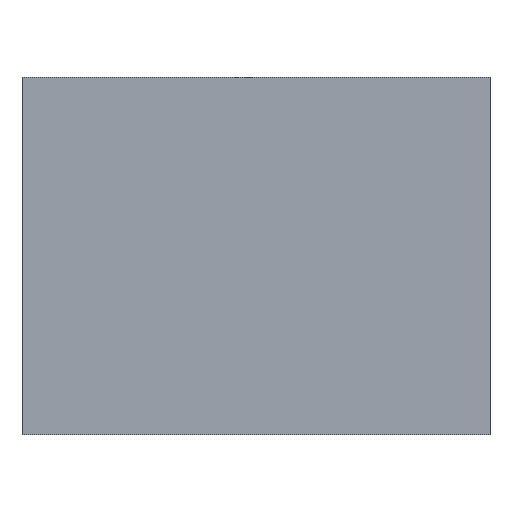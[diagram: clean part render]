
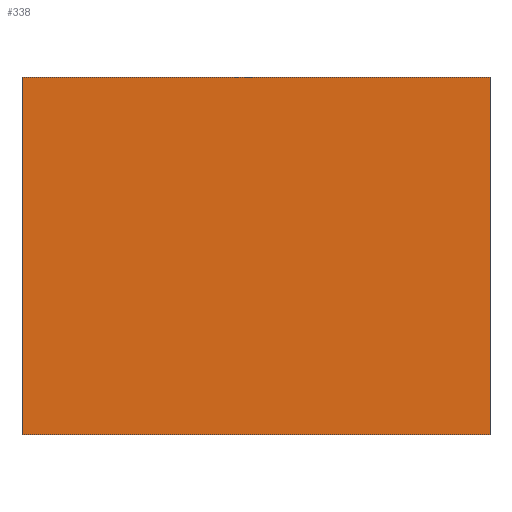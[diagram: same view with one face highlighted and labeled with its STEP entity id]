
A CAD part, top view. The second image highlights one B-rep face of the part: STEP entity #338.
In plain terms, the highlighted planar face has unit normal (0, 0, 1).
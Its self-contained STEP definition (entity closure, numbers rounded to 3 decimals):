
#24 = VERTEX_POINT('',#25);
#25 = CARTESIAN_POINT('',(0.,0.,1.2));
#32 = PLANE('',#33);
#33 = AXIS2_PLACEMENT_3D('',#34,#35,#36);
#34 = CARTESIAN_POINT('',(0.,0.,0.));
#35 = DIRECTION('',(1.,0.,-0.));
#36 = DIRECTION('',(0.,0.,1.));
#44 = PLANE('',#45);
#45 = AXIS2_PLACEMENT_3D('',#46,#47,#48);
#46 = CARTESIAN_POINT('',(0.,0.,0.));
#47 = DIRECTION('',(-0.,1.,0.));
#48 = DIRECTION('',(0.,0.,1.));
#85 = VERTEX_POINT('',#86);
#86 = CARTESIAN_POINT('',(0.,26.,1.2));
#100 = PLANE('',#101);
#101 = AXIS2_PLACEMENT_3D('',#102,#103,#104);
#102 = CARTESIAN_POINT('',(0.,26.,0.));
#103 = DIRECTION('',(-0.,1.,0.));
#104 = DIRECTION('',(0.,0.,1.));
#112 = EDGE_CURVE('',#24,#85,#113,.T.);
#113 = SURFACE_CURVE('',#114,(#118,#125),.PCURVE_S1.);
#114 = LINE('',#115,#116);
#115 = CARTESIAN_POINT('',(0.,0.,1.2));
#116 = VECTOR('',#117,1.);
#117 = DIRECTION('',(-0.,1.,0.));
#118 = PCURVE('',#32,#119);
#119 = DEFINITIONAL_REPRESENTATION('',(#120),#124);
#120 = LINE('',#121,#122);
#121 = CARTESIAN_POINT('',(1.2,0.));
#122 = VECTOR('',#123,1.);
#123 = DIRECTION('',(0.,-1.));
#124 = ( GEOMETRIC_REPRESENTATION_CONTEXT(2)
PARAMETRIC_REPRESENTATION_CONTEXT() REPRESENTATION_CONTEXT('2D SPACE',''
  ) );
#125 = PCURVE('',#126,#131);
#126 = PLANE('',#127);
#127 = AXIS2_PLACEMENT_3D('',#128,#129,#130);
#128 = CARTESIAN_POINT('',(0.,0.,1.2));
#129 = DIRECTION('',(0.,0.,1.));
#130 = DIRECTION('',(1.,0.,-0.));
#131 = DEFINITIONAL_REPRESENTATION('',(#132),#136);
#132 = LINE('',#133,#134);
#133 = CARTESIAN_POINT('',(0.,0.));
#134 = VECTOR('',#135,1.);
#135 = DIRECTION('',(0.,1.));
#136 = ( GEOMETRIC_REPRESENTATION_CONTEXT(2)
PARAMETRIC_REPRESENTATION_CONTEXT() REPRESENTATION_CONTEXT('2D SPACE',''
  ) );
#144 = VERTEX_POINT('',#145);
#145 = CARTESIAN_POINT('',(34.,0.,1.2));
#152 = PLANE('',#153);
#153 = AXIS2_PLACEMENT_3D('',#154,#155,#156);
#154 = CARTESIAN_POINT('',(34.,0.,0.));
#155 = DIRECTION('',(1.,0.,-0.));
#156 = DIRECTION('',(0.,0.,1.));
#195 = VERTEX_POINT('',#196);
#196 = CARTESIAN_POINT('',(34.,26.,1.2));
#217 = EDGE_CURVE('',#144,#195,#218,.T.);
#218 = SURFACE_CURVE('',#219,(#223,#230),.PCURVE_S1.);
#219 = LINE('',#220,#221);
#220 = CARTESIAN_POINT('',(34.,0.,1.2));
#221 = VECTOR('',#222,1.);
#222 = DIRECTION('',(-0.,1.,0.));
#223 = PCURVE('',#152,#224);
#224 = DEFINITIONAL_REPRESENTATION('',(#225),#229);
#225 = LINE('',#226,#227);
#226 = CARTESIAN_POINT('',(1.2,0.));
#227 = VECTOR('',#228,1.);
#228 = DIRECTION('',(0.,-1.));
#229 = ( GEOMETRIC_REPRESENTATION_CONTEXT(2)
PARAMETRIC_REPRESENTATION_CONTEXT() REPRESENTATION_CONTEXT('2D SPACE',''
  ) );
#230 = PCURVE('',#126,#231);
#231 = DEFINITIONAL_REPRESENTATION('',(#232),#236);
#232 = LINE('',#233,#234);
#233 = CARTESIAN_POINT('',(34.,0.));
#234 = VECTOR('',#235,1.);
#235 = DIRECTION('',(0.,1.));
#236 = ( GEOMETRIC_REPRESENTATION_CONTEXT(2)
PARAMETRIC_REPRESENTATION_CONTEXT() REPRESENTATION_CONTEXT('2D SPACE',''
  ) );
#263 = EDGE_CURVE('',#24,#144,#264,.T.);
#264 = SURFACE_CURVE('',#265,(#269,#276),.PCURVE_S1.);
#265 = LINE('',#266,#267);
#266 = CARTESIAN_POINT('',(0.,0.,1.2));
#267 = VECTOR('',#268,1.);
#268 = DIRECTION('',(1.,0.,-0.));
#269 = PCURVE('',#44,#270);
#270 = DEFINITIONAL_REPRESENTATION('',(#271),#275);
#271 = LINE('',#272,#273);
#272 = CARTESIAN_POINT('',(1.2,0.));
#273 = VECTOR('',#274,1.);
#274 = DIRECTION('',(0.,1.));
#275 = ( GEOMETRIC_REPRESENTATION_CONTEXT(2)
PARAMETRIC_REPRESENTATION_CONTEXT() REPRESENTATION_CONTEXT('2D SPACE',''
  ) );
#276 = PCURVE('',#126,#277);
#277 = DEFINITIONAL_REPRESENTATION('',(#278),#282);
#278 = LINE('',#279,#280);
#279 = CARTESIAN_POINT('',(0.,0.));
#280 = VECTOR('',#281,1.);
#281 = DIRECTION('',(1.,0.));
#282 = ( GEOMETRIC_REPRESENTATION_CONTEXT(2)
PARAMETRIC_REPRESENTATION_CONTEXT() REPRESENTATION_CONTEXT('2D SPACE',''
  ) );
#310 = EDGE_CURVE('',#85,#195,#311,.T.);
#311 = SURFACE_CURVE('',#312,(#316,#323),.PCURVE_S1.);
#312 = LINE('',#313,#314);
#313 = CARTESIAN_POINT('',(0.,26.,1.2));
#314 = VECTOR('',#315,1.);
#315 = DIRECTION('',(1.,0.,-0.));
#316 = PCURVE('',#100,#317);
#317 = DEFINITIONAL_REPRESENTATION('',(#318),#322);
#318 = LINE('',#319,#320);
#319 = CARTESIAN_POINT('',(1.2,0.));
#320 = VECTOR('',#321,1.);
#321 = DIRECTION('',(0.,1.));
#322 = ( GEOMETRIC_REPRESENTATION_CONTEXT(2)
PARAMETRIC_REPRESENTATION_CONTEXT() REPRESENTATION_CONTEXT('2D SPACE',''
  ) );
#323 = PCURVE('',#126,#324);
#324 = DEFINITIONAL_REPRESENTATION('',(#325),#329);
#325 = LINE('',#326,#327);
#326 = CARTESIAN_POINT('',(0.,26.));
#327 = VECTOR('',#328,1.);
#328 = DIRECTION('',(1.,0.));
#329 = ( GEOMETRIC_REPRESENTATION_CONTEXT(2)
PARAMETRIC_REPRESENTATION_CONTEXT() REPRESENTATION_CONTEXT('2D SPACE',''
  ) );
#338 = ADVANCED_FACE('',(#339),#126,.T.);
#339 = FACE_BOUND('',#340,.T.);
#340 = EDGE_LOOP('',(#341,#342,#343,#344));
#341 = ORIENTED_EDGE('',*,*,#112,.F.);
#342 = ORIENTED_EDGE('',*,*,#263,.T.);
#343 = ORIENTED_EDGE('',*,*,#217,.T.);
#344 = ORIENTED_EDGE('',*,*,#310,.F.);
